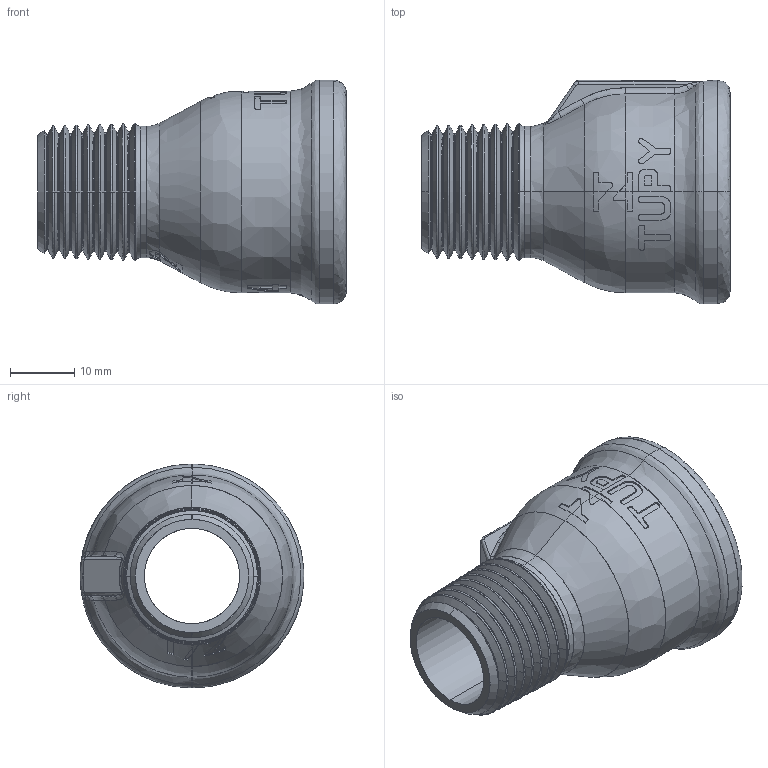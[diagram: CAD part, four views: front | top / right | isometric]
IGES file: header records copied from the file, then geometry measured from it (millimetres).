
Start section: SolidWorks IGES file using analytic representation for surfaces
Global section: file name: C:\Users\Joel Rosa\Desktop\Tubulação\12-35-OK\12-35-029.IGS; native system: SolidWorks 2011; preprocessor: SolidWorks 2011; author: Joel Rosa; date: 121209.031046; units: millimetre
Bounding box: 48 x 34.8 x 34.8 mm (x, y, z)
Surface area: 9223.8 mm2 (no closed solid volume)
Topology: 0 solids, 0 shells, 389 faces, 3477 edges, 3476 vertices
Faces by surface type: bspline 275, revolution 114
